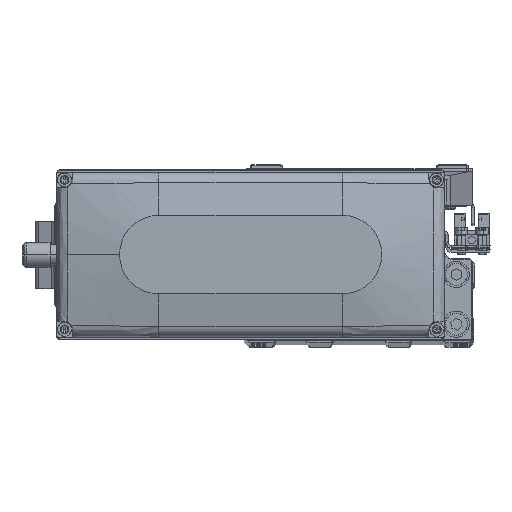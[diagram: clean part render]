
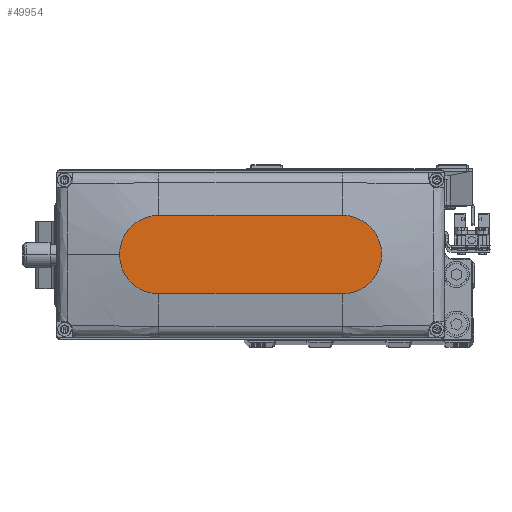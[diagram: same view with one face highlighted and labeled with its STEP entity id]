
A CAD part, top view. The second image highlights one B-rep face of the part: STEP entity #49954.
In plain terms, the highlighted planar face has unit normal (0, 0, 1).
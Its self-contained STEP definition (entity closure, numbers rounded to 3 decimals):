
#351 = VERTEX_POINT ( 'NONE', #1296 ) ;
#474 = VERTEX_POINT ( 'NONE', #33507 ) ;
#837 = CARTESIAN_POINT ( 'NONE',  ( 35., 0., 35. ) ) ;
#1296 = CARTESIAN_POINT ( 'NONE',  ( 35., -15., 35. ) ) ;
#3336 = EDGE_CURVE ( 'NONE', #351, #474, #50072, .T. ) ;
#5202 = CARTESIAN_POINT ( 'NONE',  ( 35., 0., 35. ) ) ;
#5491 = EDGE_CURVE ( 'NONE', #41290, #36656, #47675, .T. ) ;
#6177 = DIRECTION ( 'NONE',  ( 0., 0., 1. ) ) ;
#8588 = CARTESIAN_POINT ( 'NONE',  ( -35., -15., 35. ) ) ;
#8773 = EDGE_CURVE ( 'NONE', #36656, #351, #43663, .T. ) ;
#9157 = DIRECTION ( 'NONE',  ( 0., 0., 1. ) ) ;
#9392 = ORIENTED_EDGE ( 'NONE', *, *, #5491, .T. ) ;
#10024 = FACE_OUTER_BOUND ( 'NONE', #29913, .T. ) ;
#10853 = VECTOR ( 'NONE', #24210, 1000. ) ;
#11804 = CARTESIAN_POINT ( 'NONE',  ( -35., 15., 35. ) ) ;
#12559 = CARTESIAN_POINT ( 'NONE',  ( -35., 15., 35. ) ) ;
#13914 = AXIS2_PLACEMENT_3D ( 'NONE', #41221, #6177, #21779 ) ;
#16418 = DIRECTION ( 'NONE',  ( 0., 0., 1. ) ) ;
#19466 = EDGE_CURVE ( 'NONE', #42323, #41290, #47625, .T. ) ;
#20050 = CARTESIAN_POINT ( 'NONE',  ( -35., -15., 35. ) ) ;
#20791 = DIRECTION ( 'NONE',  ( 0., 0., 1. ) ) ;
#21337 = AXIS2_PLACEMENT_3D ( 'NONE', #5202, #20791, #36414 ) ;
#21779 = DIRECTION ( 'NONE',  ( 1., 0., 0. ) ) ;
#22649 = EDGE_CURVE ( 'NONE', #474, #42323, #43409, .T. ) ;
#24210 = DIRECTION ( 'NONE',  ( 1., 0., 0. ) ) ;
#24772 = DIRECTION ( 'NONE',  ( 1., 0., 0. ) ) ;
#25618 = AXIS2_PLACEMENT_3D ( 'NONE', #44230, #9157, #24772 ) ;
#25642 = PLANE ( 'NONE',  #13914 ) ;
#28025 = AXIS2_PLACEMENT_3D ( 'NONE', #837, #16418, #32044 ) ;
#28179 = DIRECTION ( 'NONE',  ( -1., 0., 0. ) ) ;
#28845 = ORIENTED_EDGE ( 'NONE', *, *, #19466, .T. ) ;
#29913 = EDGE_LOOP ( 'NONE', ( #28845, #9392, #49473, #31690, #50124 ) ) ;
#31690 = ORIENTED_EDGE ( 'NONE', *, *, #3336, .T. ) ;
#31831 = VECTOR ( 'NONE', #28179, 1000. ) ;
#32044 = DIRECTION ( 'NONE',  ( 1., 0., 0. ) ) ;
#33507 = CARTESIAN_POINT ( 'NONE',  ( 50., 0., 35. ) ) ;
#33710 = CARTESIAN_POINT ( 'NONE',  ( 35., 15., 35. ) ) ;
#36414 = DIRECTION ( 'NONE',  ( 1., 0., 0. ) ) ;
#36656 = VERTEX_POINT ( 'NONE', #20050 ) ;
#41221 = CARTESIAN_POINT ( 'NONE',  ( 0., 0., 35. ) ) ;
#41290 = VERTEX_POINT ( 'NONE', #11804 ) ;
#42323 = VERTEX_POINT ( 'NONE', #33710 ) ;
#43409 = CIRCLE ( 'NONE', #21337, 15. ) ;
#43663 = LINE ( 'NONE', #8588, #10853 ) ;
#44230 = CARTESIAN_POINT ( 'NONE',  ( -35., 0., 35. ) ) ;
#47625 = LINE ( 'NONE', #12559, #31831 ) ;
#47675 = CIRCLE ( 'NONE', #25618, 15. ) ;
#49473 = ORIENTED_EDGE ( 'NONE', *, *, #8773, .T. ) ;
#49954 = ADVANCED_FACE ( 'NONE', ( #10024 ), #25642, .T. ) ;
#50072 = CIRCLE ( 'NONE', #28025, 15. ) ;
#50124 = ORIENTED_EDGE ( 'NONE', *, *, #22649, .T. ) ;
